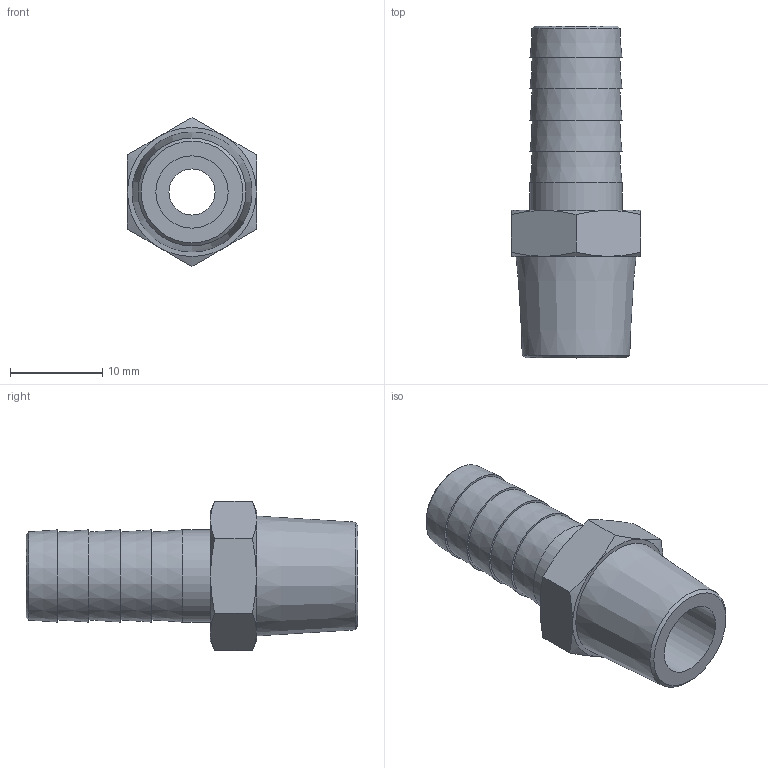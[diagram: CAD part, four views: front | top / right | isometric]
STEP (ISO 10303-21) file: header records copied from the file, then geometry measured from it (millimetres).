
FILE_DESCRIPTION(/* description */ (''),/* implementation_level */ '2;1');
FILE_NAME(/* name */ 'BXH09 10B2 00.stp',/* time_stamp */ '2026-06-22T11:16:52+02:00',/* author */ ('freju'),/* organization */ (''),/* preprocessor_version */ 'ST-DEVELOPER v20.1',/* originating_system */ 'Autodesk Inventor 2026',/* authorisation */ '');
FILE_SCHEMA (('AUTOMOTIVE_DESIGN { 1 0 10303 214 3 1 1 }'));
Length unit declared in the file: millimetre
Products named in the file (1): BXH09 10B2 00
Bounding box: 14 x 36 x 16.17 mm (x, y, z)
Volume: 2610.7 mm3; surface area: 2231.3 mm2
Topology: 1 solids, 1 shells, 38 faces, 75 edges, 46 vertices
Faces by surface type: cone 20, plane 15, cylinder 3
Full cylindrical faces by diameter (mm): 5 x1, 7.85 x1, 10 x1
Entity records: 1000 total; most frequent: CARTESIAN_POINT 208, DIRECTION 163, ORIENTED_EDGE 150, EDGE_CURVE 75, AXIS2_PLACEMENT_3D 73, EDGE_LOOP 47, VERTEX_POINT 46, FACE_OUTER_BOUND 38
